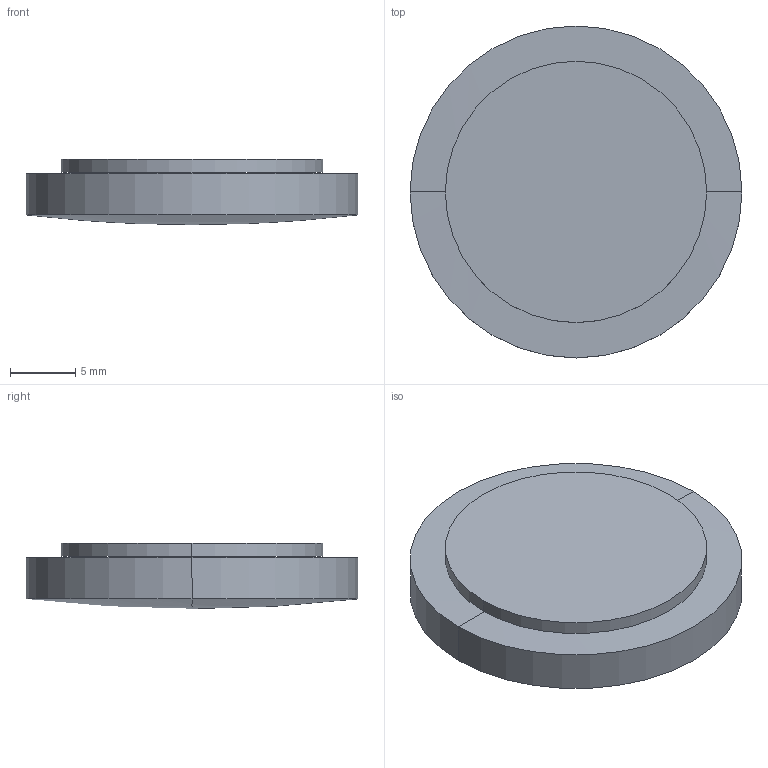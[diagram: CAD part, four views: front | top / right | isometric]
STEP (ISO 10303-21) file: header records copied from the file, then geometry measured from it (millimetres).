
FILE_DESCRIPTION(('STEP AP214'),'1');
FILE_NAME('LLV-25190.STEP','2020-03-09T17:42:21',(' '),(' '),'Spatial InterOp 3D',' ',' ');
FILE_SCHEMA(('AUTOMOTIVE_DESIGN { 1 0 10303 214 1 1 1 1 }'));
Length unit declared in the file: millimetre
Products named in the file (1): 1
Bounding box: 25.4 x 25.4 x 5 mm (x, y, z)
Volume: 2125.7 mm3; surface area: 1957.7 mm2
Topology: 2 solids, 2 shells, 10 faces, 20 edges, 10 vertices
Faces by surface type: sphere 4, cylinder 4, plane 2
Entity records: 255 total; most frequent: DIRECTION 52, CARTESIAN_POINT 38, ORIENTED_EDGE 32, AXIS2_PLACEMENT_3D 24, EDGE_CURVE 16, CIRCLE 12, ADVANCED_FACE 10, FACE_OUTER_BOUND 10
